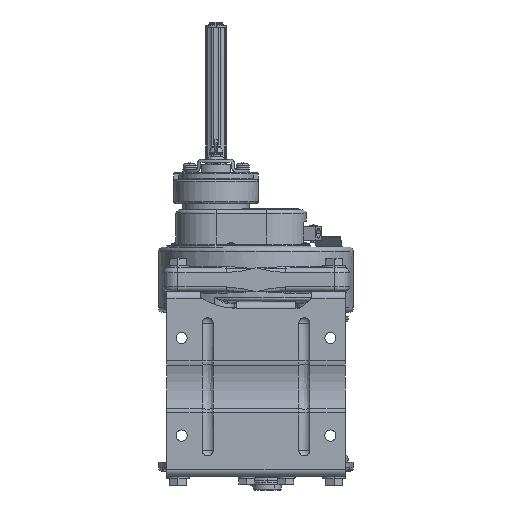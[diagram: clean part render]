
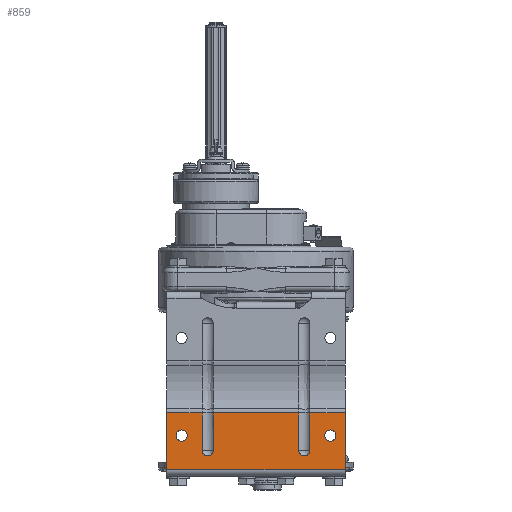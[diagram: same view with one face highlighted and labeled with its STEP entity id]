
A CAD part, front view. The second image highlights one B-rep face of the part: STEP entity #859.
In plain terms, the highlighted planar face has unit normal (0, -1, 0).
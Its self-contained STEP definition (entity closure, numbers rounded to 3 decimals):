
#859=ADVANCED_FACE('',(#10644,#10645,#10646),#10643,.T.);
#10643=PLANE('',#38896);
#10644=FACE_OUTER_BOUND('',#38897,.T.);
#10645=FACE_BOUND('',#38898,.T.);
#10646=FACE_BOUND('',#38899,.T.);
#38893=CARTESIAN_POINT('',(11.,-36.383,-223.2));
#38894=DIRECTION('',(0.,-1.,0.));
#38895=DIRECTION('',(0.,0.,1.));
#38896=AXIS2_PLACEMENT_3D('',#38893,#38894,#38895);
#38897=EDGE_LOOP('',(#60217,#60218,#60219,#60220,#60221,#60222,#60223,#60224,#60225,#60226,#60227,#60228));
#38898=EDGE_LOOP('',(#60229,#60230));
#38899=EDGE_LOOP('',(#60231,#60232));
#60217=ORIENTED_EDGE('',*,*,#73996,.T.);
#60218=ORIENTED_EDGE('',*,*,#73997,.F.);
#60219=ORIENTED_EDGE('',*,*,#73888,.T.);
#60220=ORIENTED_EDGE('',*,*,#73998,.T.);
#60221=ORIENTED_EDGE('',*,*,#73999,.T.);
#60222=ORIENTED_EDGE('',*,*,#73986,.F.);
#60223=ORIENTED_EDGE('',*,*,#73873,.F.);
#60224=ORIENTED_EDGE('',*,*,#73985,.T.);
#60225=ORIENTED_EDGE('',*,*,#73995,.T.);
#60226=ORIENTED_EDGE('',*,*,#74000,.F.);
#60227=ORIENTED_EDGE('',*,*,#74001,.F.);
#60228=ORIENTED_EDGE('',*,*,#74002,.T.);
#60229=ORIENTED_EDGE('',*,*,#74003,.F.);
#60230=ORIENTED_EDGE('',*,*,#74004,.F.);
#60231=ORIENTED_EDGE('',*,*,#74005,.F.);
#60232=ORIENTED_EDGE('',*,*,#74006,.F.);
#73873=EDGE_CURVE('',#93998,#94006,#94007,.T.);
#73888=EDGE_CURVE('',#94109,#94101,#94110,.T.);
#73985=EDGE_CURVE('',#93998,#94123,#94755,.T.);
#73986=EDGE_CURVE('',#94006,#94122,#94761,.T.);
#73995=EDGE_CURVE('',#94123,#94813,#94820,.T.);
#73996=EDGE_CURVE('',#94826,#94150,#94827,.T.);
#73997=EDGE_CURVE('',#94109,#94150,#94833,.T.);
#73998=EDGE_CURVE('',#94101,#94151,#94839,.T.);
#73999=EDGE_CURVE('',#94151,#94122,#94845,.T.);
#74000=EDGE_CURVE('',#94851,#94813,#94852,.T.);
#74001=EDGE_CURVE('',#94858,#94851,#94859,.T.);
#74002=EDGE_CURVE('',#94858,#94826,#94865,.T.);
#74003=EDGE_CURVE('',#94871,#94872,#94873,.T.);
#74004=EDGE_CURVE('',#94872,#94871,#94879,.T.);
#74005=EDGE_CURVE('',#94885,#94886,#94887,.T.);
#74006=EDGE_CURVE('',#94886,#94885,#94893,.T.);
#93998=VERTEX_POINT('',#139998);
#94006=VERTEX_POINT('',#140004);
#94007=CIRCLE('',#140008,6.);
#94101=VERTEX_POINT('',#140067);
#94109=VERTEX_POINT('',#140073);
#94110=CIRCLE('',#140077,6.);
#94122=VERTEX_POINT('',#140082);
#94123=VERTEX_POINT('',#140083);
#94150=VERTEX_POINT('',#140102);
#94151=VERTEX_POINT('',#140103);
#94755=LINE('',#140494,#140495);
#94761=LINE('',#140497,#140498);
#94813=VERTEX_POINT('',#140528);
#94820=LINE('',#140533,#140534);
#94826=VERTEX_POINT('',#140536);
#94827=LINE('',#140537,#140538);
#94833=LINE('',#140540,#140541);
#94839=LINE('',#140543,#140544);
#94845=LINE('',#140546,#140547);
#94851=VERTEX_POINT('',#140549);
#94852=LINE('',#140550,#140551);
#94858=VERTEX_POINT('',#140553);
#94859=LINE('',#140554,#140555);
#94865=LINE('',#140557,#140558);
#94871=VERTEX_POINT('',#140560);
#94872=VERTEX_POINT('',#140561);
#94873=CIRCLE('',#140565,6.);
#94879=CIRCLE('',#140569,6.);
#94885=VERTEX_POINT('',#140570);
#94886=VERTEX_POINT('',#140571);
#94887=CIRCLE('',#140575,6.);
#94893=CIRCLE('',#140579,6.);
#139998=CARTESIAN_POINT('',(-153.,-36.383,-196.302));
#140004=CARTESIAN_POINT('',(-141.,-36.383,-196.302));
#140005=CARTESIAN_POINT('',(-147.,-36.383,-196.302));
#140006=DIRECTION('',(0.,-1.,0.));
#140007=DIRECTION('',(1.,0.,0.));
#140008=AXIS2_PLACEMENT_3D('',#140005,#140006,#140007);
#140067=CARTESIAN_POINT('',(-49.,-36.383,-196.302));
#140073=CARTESIAN_POINT('',(-37.,-36.383,-196.302));
#140074=CARTESIAN_POINT('',(-43.,-36.383,-196.302));
#140075=DIRECTION('',(0.,1.,0.));
#140076=DIRECTION('',(1.,0.,0.));
#140077=AXIS2_PLACEMENT_3D('',#140074,#140075,#140076);
#140082=CARTESIAN_POINT('',(-141.,-36.383,-156.096));
#140083=CARTESIAN_POINT('',(-153.,-36.383,-156.096));
#140102=CARTESIAN_POINT('',(-37.,-36.383,-156.096));
#140103=CARTESIAN_POINT('',(-49.,-36.383,-156.096));
#140494=CARTESIAN_POINT('',(-153.,-36.383,-196.302));
#140495=VECTOR('',#140496,40.206);
#140496=DIRECTION('',(0.,0.,1.));
#140497=CARTESIAN_POINT('',(-141.,-36.383,-196.302));
#140498=VECTOR('',#140499,40.206);
#140499=DIRECTION('',(0.,0.,1.));
#140528=CARTESIAN_POINT('',(-191.,-36.383,-156.096));
#140533=CARTESIAN_POINT('',(-153.,-36.383,-156.096));
#140534=VECTOR('',#140535,38.);
#140535=DIRECTION('',(-1.,0.,0.));
#140536=CARTESIAN_POINT('',(1.,-36.383,-156.096));
#140537=CARTESIAN_POINT('',(1.,-36.383,-156.096));
#140538=VECTOR('',#140539,38.);
#140539=DIRECTION('',(-1.,0.,0.));
#140540=CARTESIAN_POINT('',(-37.,-36.383,-196.302));
#140541=VECTOR('',#140542,40.206);
#140542=DIRECTION('',(0.,0.,1.));
#140543=CARTESIAN_POINT('',(-49.,-36.383,-196.302));
#140544=VECTOR('',#140545,40.206);
#140545=DIRECTION('',(0.,0.,1.));
#140546=CARTESIAN_POINT('',(-49.,-36.383,-156.096));
#140547=VECTOR('',#140548,92.);
#140548=DIRECTION('',(-1.,0.,0.));
#140549=CARTESIAN_POINT('',(-191.,-36.383,-217.1));
#140550=CARTESIAN_POINT('',(-191.,-36.383,-217.1));
#140551=VECTOR('',#140552,61.004);
#140552=DIRECTION('',(0.,0.,1.));
#140553=CARTESIAN_POINT('',(1.,-36.383,-217.1));
#140554=CARTESIAN_POINT('',(1.,-36.383,-217.1));
#140555=VECTOR('',#140556,192.);
#140556=DIRECTION('',(-1.,0.,0.));
#140557=CARTESIAN_POINT('',(1.,-36.383,-217.1));
#140558=VECTOR('',#140559,61.004);
#140559=DIRECTION('',(0.,0.,1.));
#140560=CARTESIAN_POINT('',(-15.,-36.383,-186.4));
#140561=CARTESIAN_POINT('',(-15.,-36.383,-174.4));
#140562=CARTESIAN_POINT('',(-15.,-36.383,-180.4));
#140563=DIRECTION('',(0.,-1.,0.));
#140564=DIRECTION('',(0.,0.,1.));
#140565=AXIS2_PLACEMENT_3D('',#140562,#140563,#140564);
#140566=CARTESIAN_POINT('',(-15.,-36.383,-180.4));
#140567=DIRECTION('',(0.,-1.,0.));
#140568=DIRECTION('',(0.,0.,1.));
#140569=AXIS2_PLACEMENT_3D('',#140566,#140567,#140568);
#140570=CARTESIAN_POINT('',(-175.,-36.383,-186.4));
#140571=CARTESIAN_POINT('',(-175.,-36.383,-174.4));
#140572=CARTESIAN_POINT('',(-175.,-36.383,-180.4));
#140573=DIRECTION('',(0.,-1.,0.));
#140574=DIRECTION('',(0.,0.,1.));
#140575=AXIS2_PLACEMENT_3D('',#140572,#140573,#140574);
#140576=CARTESIAN_POINT('',(-175.,-36.383,-180.4));
#140577=DIRECTION('',(0.,-1.,0.));
#140578=DIRECTION('',(0.,0.,1.));
#140579=AXIS2_PLACEMENT_3D('',#140576,#140577,#140578);
